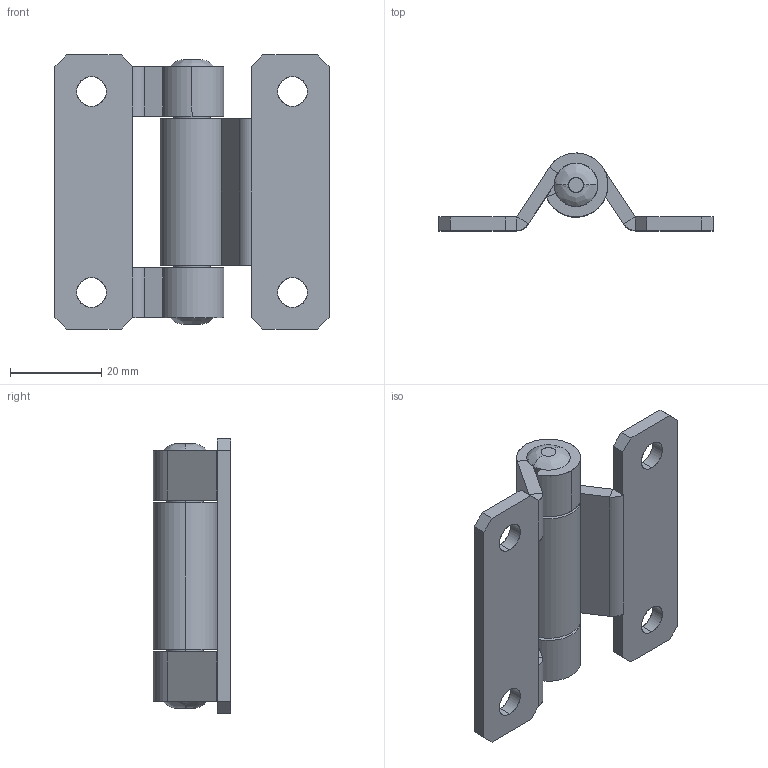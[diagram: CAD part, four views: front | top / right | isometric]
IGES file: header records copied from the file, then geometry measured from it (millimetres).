
Start section: SolidWorks IGES file using analytic representation for surfaces
Global section: file name: C:\Users\cbrechard\Desktop\30876.IGS; native system: SolidWorks 2017; preprocessor: SolidWorks 2017; author: cbrechard; date: 191008.174826; units: millimetre
Bounding box: 60 x 17 x 60 mm (x, y, z)
Surface area: 11967.5 mm2 (no closed solid volume)
Topology: 0 solids, 0 shells, 86 faces, 1212 edges, 1212 vertices
Faces by surface type: bspline 56, revolution 30
